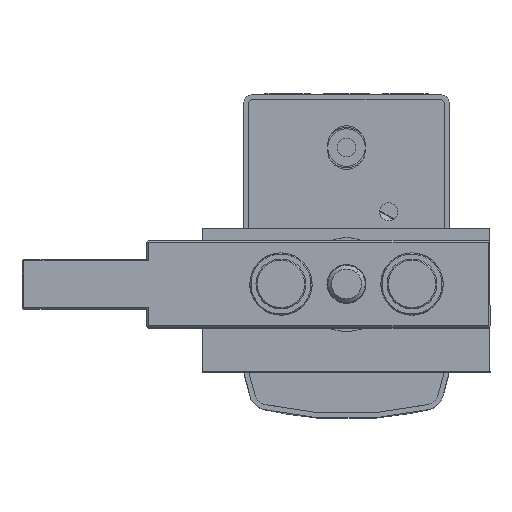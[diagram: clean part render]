
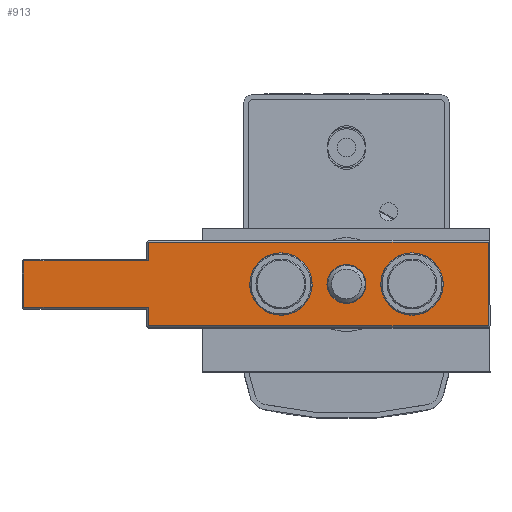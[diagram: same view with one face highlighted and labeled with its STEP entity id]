
A CAD part, top view. The second image highlights one B-rep face of the part: STEP entity #913.
In plain terms, the highlighted planar face has unit normal (0, 0, 1).
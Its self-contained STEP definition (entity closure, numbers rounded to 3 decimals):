
#33 = CARTESIAN_POINT ( 'NONE',  ( -31.7, 6.7, 23. ) ) ;
#123 = CIRCLE ( 'NONE', #12406, 4.99 ) ;
#245 = ORIENTED_EDGE ( 'NONE', *, *, #2899, .T. ) ;
#375 = DIRECTION ( 'NONE',  ( 0., 0., -1. ) ) ;
#397 = CIRCLE ( 'NONE', #15562, 4.99 ) ;
#515 = ORIENTED_EDGE ( 'NONE', *, *, #3175, .T. ) ;
#658 = VECTOR ( 'NONE', #19987, 1000. ) ;
#861 = ORIENTED_EDGE ( 'NONE', *, *, #2870, .T. ) ;
#913 = ADVANCED_FACE ( 'NONE', ( #12577, #2359, #20924, #16188 ), #15369, .F. ) ;
#1105 = EDGE_CURVE ( 'NONE', #21878, #9272, #16463, .T. ) ;
#1155 = DIRECTION ( 'NONE',  ( -1., 0., 0. ) ) ;
#1218 = CARTESIAN_POINT ( 'NONE',  ( 68., 3.7, 23. ) ) ;
#1343 = CARTESIAN_POINT ( 'NONE',  ( -10.5, -4.99, 23. ) ) ;
#1490 = DIRECTION ( 'NONE',  ( 0., 0., 1. ) ) ;
#1844 = CARTESIAN_POINT ( 'NONE',  ( 10.5, -4.99, 23. ) ) ;
#1932 = VERTEX_POINT ( 'NONE', #21387 ) ;
#1980 = VERTEX_POINT ( 'NONE', #8375 ) ;
#2250 = VECTOR ( 'NONE', #23104, 1000. ) ;
#2359 = FACE_BOUND ( 'NONE', #7628, .T. ) ;
#2387 = VECTOR ( 'NONE', #16721, 1000. ) ;
#2569 = DIRECTION ( 'NONE',  ( -1., 0., 0. ) ) ;
#2696 = ORIENTED_EDGE ( 'NONE', *, *, #11878, .F. ) ;
#2870 = EDGE_CURVE ( 'NONE', #11568, #3845, #14596, .T. ) ;
#2899 = EDGE_CURVE ( 'NONE', #3845, #11568, #123, .T. ) ;
#3175 = EDGE_CURVE ( 'NONE', #8525, #6257, #397, .T. ) ;
#3729 = EDGE_CURVE ( 'NONE', #9272, #18237, #12043, .T. ) ;
#3845 = VERTEX_POINT ( 'NONE', #17124 ) ;
#3925 = CARTESIAN_POINT ( 'NONE',  ( -31.7, -6.7, 23. ) ) ;
#4310 = ORIENTED_EDGE ( 'NONE', *, *, #21172, .T. ) ;
#4914 = CARTESIAN_POINT ( 'NONE',  ( -10.5, 0., 23. ) ) ;
#5316 = ORIENTED_EDGE ( 'NONE', *, *, #19113, .T. ) ;
#5622 = EDGE_LOOP ( 'NONE', ( #11604, #12464, #5316, #9603, #4310, #17499, #13492, #16574 ) ) ;
#5860 = CARTESIAN_POINT ( 'NONE',  ( 22.7, 6.7, 23. ) ) ;
#5863 = VERTEX_POINT ( 'NONE', #9706 ) ;
#6257 = VERTEX_POINT ( 'NONE', #1844 ) ;
#6286 = CARTESIAN_POINT ( 'NONE',  ( 0., 0., 23. ) ) ;
#6526 = CIRCLE ( 'NONE', #15907, 4.99 ) ;
#6740 = DIRECTION ( 'NONE',  ( 0., -1., 0. ) ) ;
#6923 = VECTOR ( 'NONE', #1155, 1000. ) ;
#6924 = AXIS2_PLACEMENT_3D ( 'NONE', #6286, #18854, #8105 ) ;
#7186 = LINE ( 'NONE', #11537, #20340 ) ;
#7277 = CARTESIAN_POINT ( 'NONE',  ( -31.7, -7., 23. ) ) ;
#7559 = AXIS2_PLACEMENT_3D ( 'NONE', #10257, #22678, #12021 ) ;
#7628 = EDGE_LOOP ( 'NONE', ( #13226, #515 ) ) ;
#8105 = DIRECTION ( 'NONE',  ( 0., 1., 0. ) ) ;
#8375 = CARTESIAN_POINT ( 'NONE',  ( -31.7, -3.7, 23. ) ) ;
#8453 = EDGE_CURVE ( 'NONE', #8977, #9850, #7186, .T. ) ;
#8525 = VERTEX_POINT ( 'NONE', #15351 ) ;
#8851 = CARTESIAN_POINT ( 'NONE',  ( 22.7, -7., 23. ) ) ;
#8977 = VERTEX_POINT ( 'NONE', #5860 ) ;
#8997 = CARTESIAN_POINT ( 'NONE',  ( 10.5, 0., 23. ) ) ;
#9272 = VERTEX_POINT ( 'NONE', #14229 ) ;
#9603 = ORIENTED_EDGE ( 'NONE', *, *, #23106, .T. ) ;
#9706 = CARTESIAN_POINT ( 'NONE',  ( 0., -3.125, 23. ) ) ;
#9770 = CARTESIAN_POINT ( 'NONE',  ( -31.7, -7., 23. ) ) ;
#9850 = VERTEX_POINT ( 'NONE', #33 ) ;
#10006 = CIRCLE ( 'NONE', #21092, 3.125 ) ;
#10257 = CARTESIAN_POINT ( 'NONE',  ( -10.5, 0., 23. ) ) ;
#10271 = DIRECTION ( 'NONE',  ( 1., 0., 0. ) ) ;
#10336 = DIRECTION ( 'NONE',  ( 0., 0., -1. ) ) ;
#10493 = VERTEX_POINT ( 'NONE', #3925 ) ;
#10626 = CARTESIAN_POINT ( 'NONE',  ( 68., -7., 23. ) ) ;
#10818 = DIRECTION ( 'NONE',  ( 0., -1., 0. ) ) ;
#11120 = CARTESIAN_POINT ( 'NONE',  ( 68., -3.7, 23. ) ) ;
#11310 = CARTESIAN_POINT ( 'NONE',  ( 10.5, 0., 23. ) ) ;
#11537 = CARTESIAN_POINT ( 'NONE',  ( -32., 6.7, 23. ) ) ;
#11547 = CARTESIAN_POINT ( 'NONE',  ( 22.7, -6.7, 23. ) ) ;
#11568 = VERTEX_POINT ( 'NONE', #1343 ) ;
#11570 = DIRECTION ( 'NONE',  ( 0., -1., 0. ) ) ;
#11604 = ORIENTED_EDGE ( 'NONE', *, *, #3729, .T. ) ;
#11878 = EDGE_CURVE ( 'NONE', #1932, #5863, #18581, .T. ) ;
#12021 = DIRECTION ( 'NONE',  ( 0., -1., 0. ) ) ;
#12043 = LINE ( 'NONE', #22094, #2387 ) ;
#12393 = CARTESIAN_POINT ( 'NONE',  ( 0., 0., 23. ) ) ;
#12406 = AXIS2_PLACEMENT_3D ( 'NONE', #4914, #17487, #6740 ) ;
#12464 = ORIENTED_EDGE ( 'NONE', *, *, #15078, .T. ) ;
#12577 = FACE_BOUND ( 'NONE', #17728, .T. ) ;
#13028 = AXIS2_PLACEMENT_3D ( 'NONE', #10626, #10336, #10271 ) ;
#13078 = CARTESIAN_POINT ( 'NONE',  ( -51.7, -3.7, 23. ) ) ;
#13101 = DIRECTION ( 'NONE',  ( 0., -1., 0. ) ) ;
#13226 = ORIENTED_EDGE ( 'NONE', *, *, #21210, .T. ) ;
#13492 = ORIENTED_EDGE ( 'NONE', *, *, #15226, .T. ) ;
#13651 = VECTOR ( 'NONE', #18032, 1000. ) ;
#14189 = DIRECTION ( 'NONE',  ( 0., 1., 0. ) ) ;
#14229 = CARTESIAN_POINT ( 'NONE',  ( -51.7, 3.7, 23. ) ) ;
#14596 = CIRCLE ( 'NONE', #7559, 4.99 ) ;
#15078 = EDGE_CURVE ( 'NONE', #18237, #1980, #19852, .T. ) ;
#15226 = EDGE_CURVE ( 'NONE', #9850, #21878, #17054, .T. ) ;
#15351 = CARTESIAN_POINT ( 'NONE',  ( 10.5, 4.99, 23. ) ) ;
#15369 = PLANE ( 'NONE',  #13028 ) ;
#15562 = AXIS2_PLACEMENT_3D ( 'NONE', #11310, #375, #13101 ) ;
#15907 = AXIS2_PLACEMENT_3D ( 'NONE', #8997, #21462, #10818 ) ;
#15983 = LINE ( 'NONE', #22894, #19611 ) ;
#16188 = FACE_OUTER_BOUND ( 'NONE', #5622, .T. ) ;
#16463 = LINE ( 'NONE', #1218, #6923 ) ;
#16574 = ORIENTED_EDGE ( 'NONE', *, *, #1105, .T. ) ;
#16721 = DIRECTION ( 'NONE',  ( 0., -1., 0. ) ) ;
#17054 = LINE ( 'NONE', #9770, #21781 ) ;
#17124 = CARTESIAN_POINT ( 'NONE',  ( -10.5, 4.99, 23. ) ) ;
#17487 = DIRECTION ( 'NONE',  ( 0., 0., -1. ) ) ;
#17499 = ORIENTED_EDGE ( 'NONE', *, *, #8453, .T. ) ;
#17704 = VERTEX_POINT ( 'NONE', #11547 ) ;
#17728 = EDGE_LOOP ( 'NONE', ( #861, #245 ) ) ;
#18032 = DIRECTION ( 'NONE',  ( 0., -1., 0. ) ) ;
#18237 = VERTEX_POINT ( 'NONE', #13078 ) ;
#18581 = CIRCLE ( 'NONE', #6924, 3.125 ) ;
#18854 = DIRECTION ( 'NONE',  ( 0., 0., 1. ) ) ;
#18856 = EDGE_LOOP ( 'NONE', ( #2696, #21646 ) ) ;
#19113 = EDGE_CURVE ( 'NONE', #1980, #10493, #23100, .T. ) ;
#19577 = EDGE_CURVE ( 'NONE', #5863, #1932, #10006, .T. ) ;
#19611 = VECTOR ( 'NONE', #21119, 1000. ) ;
#19752 = CARTESIAN_POINT ( 'NONE',  ( -31.7, 3.7, 23. ) ) ;
#19852 = LINE ( 'NONE', #11120, #658 ) ;
#19987 = DIRECTION ( 'NONE',  ( 1., 0., 0. ) ) ;
#20340 = VECTOR ( 'NONE', #2569, 1000. ) ;
#20924 = FACE_BOUND ( 'NONE', #18856, .T. ) ;
#21092 = AXIS2_PLACEMENT_3D ( 'NONE', #12393, #1490, #14189 ) ;
#21119 = DIRECTION ( 'NONE',  ( 1., 0., 0. ) ) ;
#21172 = EDGE_CURVE ( 'NONE', #17704, #8977, #21368, .T. ) ;
#21210 = EDGE_CURVE ( 'NONE', #6257, #8525, #6526, .T. ) ;
#21368 = LINE ( 'NONE', #8851, #2250 ) ;
#21387 = CARTESIAN_POINT ( 'NONE',  ( 0., 3.125, 23. ) ) ;
#21462 = DIRECTION ( 'NONE',  ( 0., 0., -1. ) ) ;
#21646 = ORIENTED_EDGE ( 'NONE', *, *, #19577, .F. ) ;
#21781 = VECTOR ( 'NONE', #11570, 1000. ) ;
#21878 = VERTEX_POINT ( 'NONE', #19752 ) ;
#22094 = CARTESIAN_POINT ( 'NONE',  ( -51.7, -7., 23. ) ) ;
#22678 = DIRECTION ( 'NONE',  ( 0., 0., -1. ) ) ;
#22894 = CARTESIAN_POINT ( 'NONE',  ( 68., -6.7, 23. ) ) ;
#23100 = LINE ( 'NONE', #7277, #13651 ) ;
#23104 = DIRECTION ( 'NONE',  ( 0., 1., 0. ) ) ;
#23106 = EDGE_CURVE ( 'NONE', #10493, #17704, #15983, .T. ) ;
